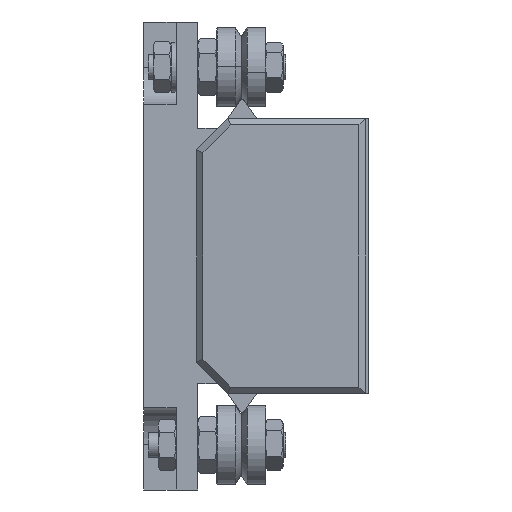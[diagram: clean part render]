
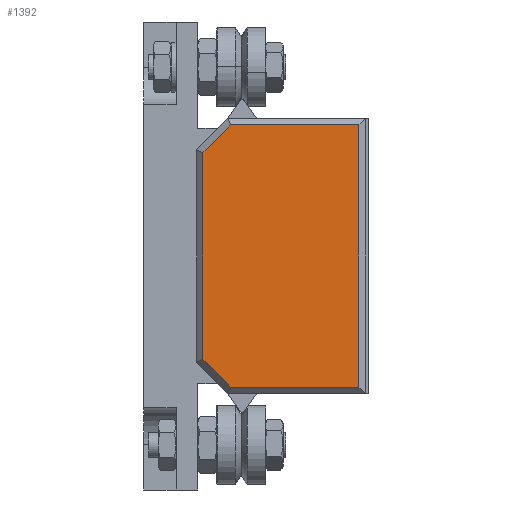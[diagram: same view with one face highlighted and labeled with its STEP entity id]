
A CAD part, left-side view. The second image highlights one B-rep face of the part: STEP entity #1392.
In plain terms, the highlighted planar face has unit normal (-1, 0, 0) as drawn and (0, 0, 1) by its records, which use the part's own axes.
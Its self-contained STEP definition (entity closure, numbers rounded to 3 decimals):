
#251 = LINE ( 'NONE', #5110, #10323 ) ;
#340 = VECTOR ( 'NONE', #4203, 1000. ) ;
#451 = CARTESIAN_POINT ( 'NONE',  ( 0., 0., 6. ) ) ;
#482 = EDGE_CURVE ( 'NONE', #8158, #7962, #3233, .T. ) ;
#630 = VECTOR ( 'NONE', #11298, 1000. ) ;
#759 = VERTEX_POINT ( 'NONE', #1798 ) ;
#1392 = ADVANCED_FACE ( 'NONE', ( #6296 ), #2380, .F. ) ;
#1412 = DIRECTION ( 'NONE',  ( -1., 0., 0. ) ) ;
#1481 = CARTESIAN_POINT ( 'NONE',  ( 21., 21.586, 6. ) ) ;
#1591 = CARTESIAN_POINT ( 'NONE',  ( -21.293, 21.293, 6. ) ) ;
#1601 = VERTEX_POINT ( 'NONE', #4677 ) ;
#1631 = CARTESIAN_POINT ( 'NONE',  ( 21., 0., 6. ) ) ;
#1798 = CARTESIAN_POINT ( 'NONE',  ( -16.586, 26., 6. ) ) ;
#2060 = EDGE_CURVE ( 'NONE', #759, #1601, #2557, .T. ) ;
#2251 = EDGE_CURVE ( 'NONE', #9137, #4002, #251, .T. ) ;
#2275 = VECTOR ( 'NONE', #5554, 1000. ) ;
#2340 = ORIENTED_EDGE ( 'NONE', *, *, #3790, .T. ) ;
#2380 = PLANE ( 'NONE',  #11516 ) ;
#2557 = LINE ( 'NONE', #1591, #9485 ) ;
#2612 = CARTESIAN_POINT ( 'NONE',  ( 21., 1., 6. ) ) ;
#3042 = CARTESIAN_POINT ( 'NONE',  ( 16.586, 26., 6. ) ) ;
#3233 = LINE ( 'NONE', #8337, #630 ) ;
#3790 = EDGE_CURVE ( 'NONE', #1601, #9137, #12613, .T. ) ;
#3836 = ORIENTED_EDGE ( 'NONE', *, *, #4919, .T. ) ;
#4002 = VERTEX_POINT ( 'NONE', #2612 ) ;
#4203 = DIRECTION ( 'NONE',  ( -1., 0., 0. ) ) ;
#4376 = CARTESIAN_POINT ( 'NONE',  ( -21., 1., 6. ) ) ;
#4677 = CARTESIAN_POINT ( 'NONE',  ( -21., 21.586, 6. ) ) ;
#4781 = CARTESIAN_POINT ( 'NONE',  ( -21., 0., 6. ) ) ;
#4824 = VECTOR ( 'NONE', #8877, 1000. ) ;
#4919 = EDGE_CURVE ( 'NONE', #7962, #759, #5348, .T. ) ;
#5110 = CARTESIAN_POINT ( 'NONE',  ( 0., 1., 6. ) ) ;
#5348 = LINE ( 'NONE', #9255, #340 ) ;
#5554 = DIRECTION ( 'NONE',  ( 0., 1., 0. ) ) ;
#6159 = DIRECTION ( 'NONE',  ( 0., 0., -1. ) ) ;
#6296 = FACE_OUTER_BOUND ( 'NONE', #9170, .T. ) ;
#6333 = EDGE_CURVE ( 'NONE', #4002, #8158, #10492, .T. ) ;
#7962 = VERTEX_POINT ( 'NONE', #3042 ) ;
#7982 = DIRECTION ( 'NONE',  ( 1., 0., 0. ) ) ;
#8158 = VERTEX_POINT ( 'NONE', #1481 ) ;
#8337 = CARTESIAN_POINT ( 'NONE',  ( 16.293, 26.293, 6. ) ) ;
#8877 = DIRECTION ( 'NONE',  ( 0., -1., 0. ) ) ;
#9137 = VERTEX_POINT ( 'NONE', #4376 ) ;
#9170 = EDGE_LOOP ( 'NONE', ( #2340, #9981, #11284, #9677, #3836, #9441 ) ) ;
#9255 = CARTESIAN_POINT ( 'NONE',  ( 0., 26., 6. ) ) ;
#9441 = ORIENTED_EDGE ( 'NONE', *, *, #2060, .T. ) ;
#9485 = VECTOR ( 'NONE', #12368, 1000. ) ;
#9677 = ORIENTED_EDGE ( 'NONE', *, *, #482, .T. ) ;
#9981 = ORIENTED_EDGE ( 'NONE', *, *, #2251, .T. ) ;
#10323 = VECTOR ( 'NONE', #7982, 1000. ) ;
#10492 = LINE ( 'NONE', #1631, #2275 ) ;
#11284 = ORIENTED_EDGE ( 'NONE', *, *, #6333, .T. ) ;
#11298 = DIRECTION ( 'NONE',  ( -0.707, 0.707, 0. ) ) ;
#11516 = AXIS2_PLACEMENT_3D ( 'NONE', #451, #6159, #1412 ) ;
#12368 = DIRECTION ( 'NONE',  ( -0.707, -0.707, 0. ) ) ;
#12613 = LINE ( 'NONE', #4781, #4824 ) ;
